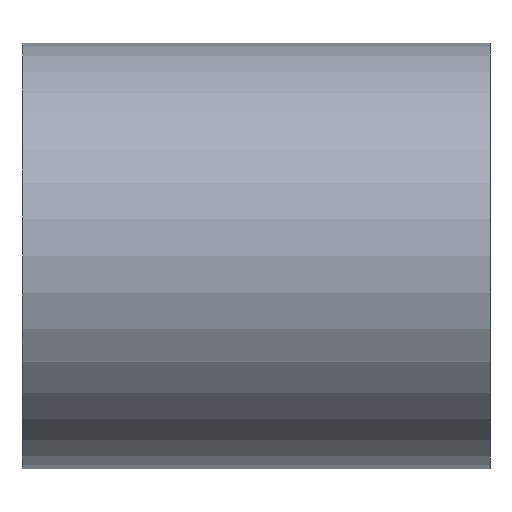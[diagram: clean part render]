
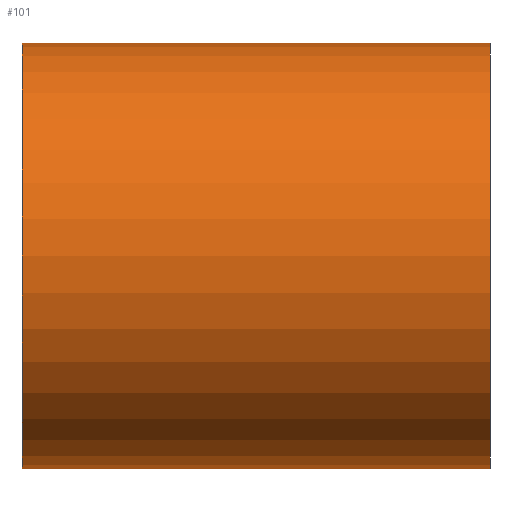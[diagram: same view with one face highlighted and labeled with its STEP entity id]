
A CAD part, front view. The second image highlights one B-rep face of the part: STEP entity #101.
In plain terms, the highlighted cylindrical face has radius 30 mm (diameter 60 mm), a full revolution.
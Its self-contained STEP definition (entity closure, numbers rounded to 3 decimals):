
#25=FACE_BOUND('',#48,.T.);
#33=FACE_OUTER_BOUND('',#47,.T.);
#47=EDGE_LOOP('',(#87));
#48=EDGE_LOOP('',(#88));
#57=CIRCLE('',#117,30.);
#58=CIRCLE('',#119,30.);
#65=VERTEX_POINT('',#174);
#66=VERTEX_POINT('',#177);
#73=EDGE_CURVE('',#65,#65,#57,.T.);
#74=EDGE_CURVE('',#66,#66,#58,.T.);
#87=ORIENTED_EDGE('',*,*,#73,.F.);
#88=ORIENTED_EDGE('',*,*,#74,.F.);
#94=CYLINDRICAL_SURFACE('',#118,30.);
#101=ADVANCED_FACE('',(#33,#25),#94,.T.);
#117=AXIS2_PLACEMENT_3D('',#175,#147,#148);
#118=AXIS2_PLACEMENT_3D('',#176,#149,#150);
#119=AXIS2_PLACEMENT_3D('',#178,#151,#152);
#147=DIRECTION('center_axis',(-1.,0.,0.));
#148=DIRECTION('ref_axis',(0.,-1.,0.));
#149=DIRECTION('center_axis',(1.,0.,0.));
#150=DIRECTION('ref_axis',(0.,-1.,0.));
#151=DIRECTION('center_axis',(1.,0.,0.));
#152=DIRECTION('ref_axis',(0.,-1.,0.));
#174=CARTESIAN_POINT('',(-33.,30.,0.));
#175=CARTESIAN_POINT('Origin',(-33.,0.,0.));
#176=CARTESIAN_POINT('Origin',(0.,0.,0.));
#177=CARTESIAN_POINT('',(33.,30.,0.));
#178=CARTESIAN_POINT('Origin',(33.,0.,0.));
